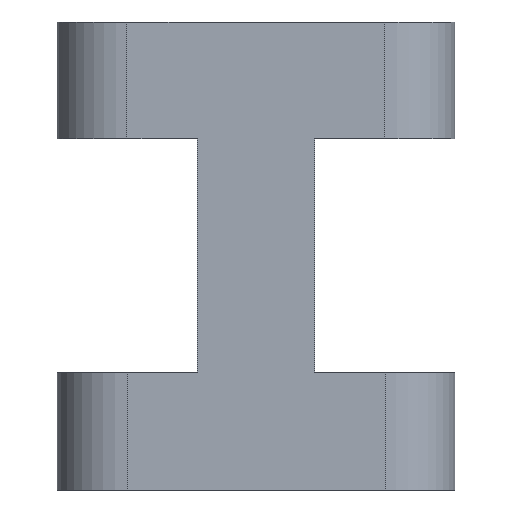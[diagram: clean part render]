
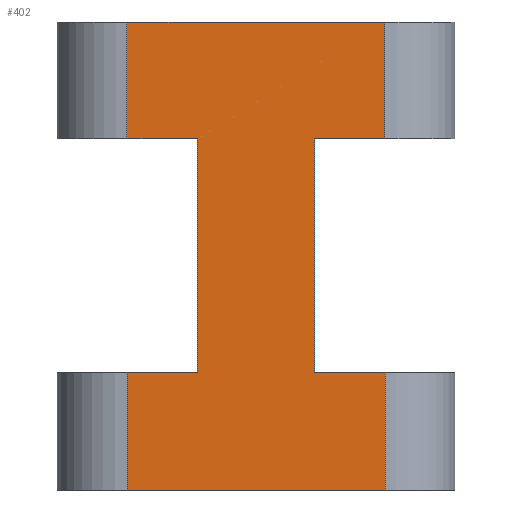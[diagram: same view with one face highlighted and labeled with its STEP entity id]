
A CAD part, front view. The second image highlights one B-rep face of the part: STEP entity #402.
In plain terms, the highlighted planar face has unit normal (0, -1, 0).
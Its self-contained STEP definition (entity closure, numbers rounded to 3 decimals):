
#27=PLANE('',#428);
#38=FACE_OUTER_BOUND('',#60,.T.);
#60=EDGE_LOOP('',(#281,#282,#283,#284,#285,#286,#287,#288,#289,#290,#291,
#292));
#93=LINE('',#603,#125);
#95=LINE('',#609,#127);
#96=LINE('',#611,#128);
#97=LINE('',#613,#129);
#98=LINE('',#615,#130);
#99=LINE('',#617,#131);
#100=LINE('',#619,#132);
#101=LINE('',#621,#133);
#102=LINE('',#623,#134);
#103=LINE('',#625,#135);
#104=LINE('',#627,#136);
#105=LINE('',#628,#137);
#125=VECTOR('',#477,9.);
#127=VECTOR('',#483,10.);
#128=VECTOR('',#484,10.);
#129=VECTOR('',#485,10.);
#130=VECTOR('',#486,10.);
#131=VECTOR('',#487,10.);
#132=VECTOR('',#488,9.);
#133=VECTOR('',#489,10.);
#134=VECTOR('',#490,10.);
#135=VECTOR('',#491,10.);
#136=VECTOR('',#492,10.);
#137=VECTOR('',#493,10.);
#182=VERTEX_POINT('',#600);
#183=VERTEX_POINT('',#602);
#185=VERTEX_POINT('',#608);
#186=VERTEX_POINT('',#610);
#187=VERTEX_POINT('',#612);
#188=VERTEX_POINT('',#614);
#189=VERTEX_POINT('',#616);
#190=VERTEX_POINT('',#618);
#191=VERTEX_POINT('',#620);
#192=VERTEX_POINT('',#622);
#193=VERTEX_POINT('',#624);
#194=VERTEX_POINT('',#626);
#222=EDGE_CURVE('',#182,#183,#93,.T.);
#225=EDGE_CURVE('',#182,#185,#95,.T.);
#226=EDGE_CURVE('',#185,#186,#96,.T.);
#227=EDGE_CURVE('',#186,#187,#97,.T.);
#228=EDGE_CURVE('',#188,#187,#98,.T.);
#229=EDGE_CURVE('',#189,#188,#99,.T.);
#230=EDGE_CURVE('',#190,#189,#100,.T.);
#231=EDGE_CURVE('',#190,#191,#101,.T.);
#232=EDGE_CURVE('',#191,#192,#102,.T.);
#233=EDGE_CURVE('',#192,#193,#103,.T.);
#234=EDGE_CURVE('',#194,#193,#104,.T.);
#235=EDGE_CURVE('',#183,#194,#105,.T.);
#281=ORIENTED_EDGE('',*,*,#222,.F.);
#282=ORIENTED_EDGE('',*,*,#225,.T.);
#283=ORIENTED_EDGE('',*,*,#226,.T.);
#284=ORIENTED_EDGE('',*,*,#227,.T.);
#285=ORIENTED_EDGE('',*,*,#228,.F.);
#286=ORIENTED_EDGE('',*,*,#229,.F.);
#287=ORIENTED_EDGE('',*,*,#230,.F.);
#288=ORIENTED_EDGE('',*,*,#231,.T.);
#289=ORIENTED_EDGE('',*,*,#232,.T.);
#290=ORIENTED_EDGE('',*,*,#233,.T.);
#291=ORIENTED_EDGE('',*,*,#234,.F.);
#292=ORIENTED_EDGE('',*,*,#235,.F.);
#402=ADVANCED_FACE('',(#38),#27,.F.);
#428=AXIS2_PLACEMENT_3D('',#607,#481,#482);
#477=DIRECTION('',(0.,0.,1.));
#481=DIRECTION('center_axis',(0.,1.,0.));
#482=DIRECTION('ref_axis',(1.,0.,0.));
#483=DIRECTION('',(1.,0.,0.));
#484=DIRECTION('',(0.,0.,-1.));
#485=DIRECTION('',(-1.,0.,0.));
#486=DIRECTION('',(0.,0.,1.));
#487=DIRECTION('',(-1.,0.,0.));
#488=DIRECTION('',(0.,0.,-1.));
#489=DIRECTION('',(-1.,0.,0.));
#490=DIRECTION('',(0.,0.,1.));
#491=DIRECTION('',(1.,0.,0.));
#492=DIRECTION('',(0.,0.,-1.));
#493=DIRECTION('',(1.,0.,0.));
#600=CARTESIAN_POINT('',(8.944,0.,-15.));
#602=CARTESIAN_POINT('',(8.944,0.,0.));
#603=CARTESIAN_POINT('',(8.944,0.,-45.));
#607=CARTESIAN_POINT('Origin',(25.5,0.,-30.));
#608=CARTESIAN_POINT('',(18.,0.,-15.));
#609=CARTESIAN_POINT('',(21.75,0.,-15.));
#610=CARTESIAN_POINT('',(18.,0.,-45.));
#611=CARTESIAN_POINT('',(18.,0.,-37.5));
#612=CARTESIAN_POINT('',(9.,0.,-45.));
#613=CARTESIAN_POINT('',(12.75,0.,-45.));
#614=CARTESIAN_POINT('',(9.,0.,-60.));
#615=CARTESIAN_POINT('',(9.,0.,-45.));
#616=CARTESIAN_POINT('',(42.056,0.,-60.));
#617=CARTESIAN_POINT('',(51.,0.,-60.));
#618=CARTESIAN_POINT('',(42.056,0.,-45.));
#619=CARTESIAN_POINT('',(42.056,0.,-15.));
#620=CARTESIAN_POINT('',(33.,0.,-45.));
#621=CARTESIAN_POINT('',(29.25,0.,-45.));
#622=CARTESIAN_POINT('',(33.,0.,-15.));
#623=CARTESIAN_POINT('',(33.,0.,-22.5));
#624=CARTESIAN_POINT('',(42.,0.,-15.));
#625=CARTESIAN_POINT('',(38.25,0.,-15.));
#626=CARTESIAN_POINT('',(42.,0.,0.));
#627=CARTESIAN_POINT('',(42.,0.,-15.));
#628=CARTESIAN_POINT('',(0.,0.,0.));
